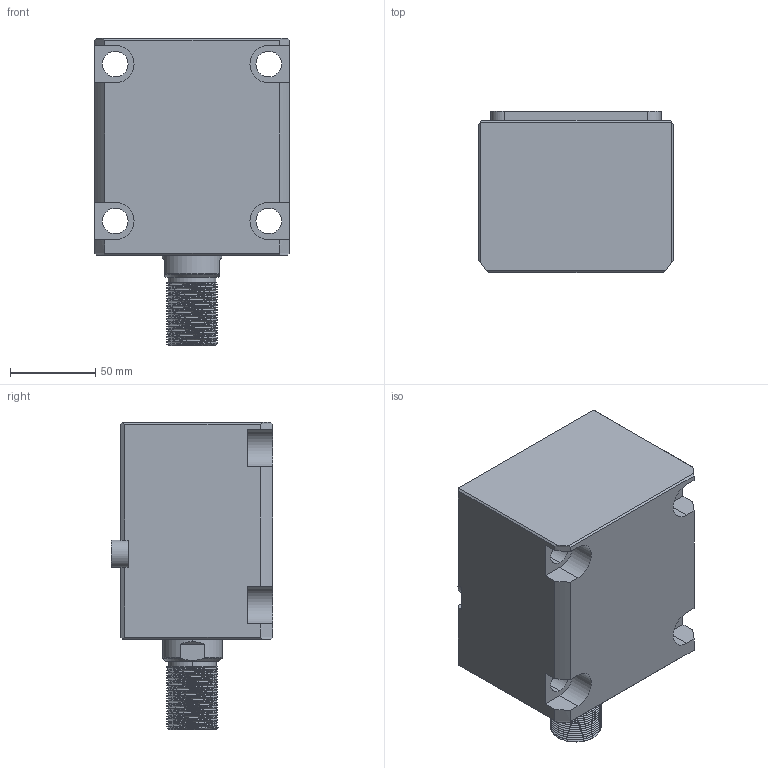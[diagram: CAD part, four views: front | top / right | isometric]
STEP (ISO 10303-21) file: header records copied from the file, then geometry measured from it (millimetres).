
FILE_DESCRIPTION (( 'STEP AP214' ), '1' );
FILE_NAME ('chtb-lam63x60w_asm.STEP', '2018-05-22T03:46:08', ( 'Windows' ), ( 'Microsoft' ), 'SwSTEP 2.0', 'SolidWorks 2015', '' );
FILE_SCHEMA (( 'AUTOMOTIVE_DESIGN' ));
Length unit declared in the file: millimetre
Products named in the file (5): CHTB-LAM63X60NBT; CHTB-LA63PJ; CHTB63X60WHSG; CHTB-63QG; chtb-lam63x60w_asm
Assembly tree (4 placements, depth 2):
  chtb-lam63x60w_asm
    CHTB-63QG
    CHTB63X60WHSG
    CHTB-LA63PJ
    CHTB-LAM63X60NBT
Bounding box: 114 x 94.5 x 180 mm (x, y, z)
Volume: 1121389.8 mm3; surface area: 163030.7 mm2
Topology: 4 solids, 4 shells, 236 faces, 696 edges, 473 vertices
Faces by surface type: cylinder 148, plane 58, bspline 15, cone 9, torus 6
Entity records: 23566 total; most frequent: CARTESIAN_POINT 17780, ORIENTED_EDGE 1384, DIRECTION 946, EDGE_CURVE 692, VERTEX_POINT 473, AXIS2_PLACEMENT_3D 344, EDGE_LOOP 259, VECTOR 258
